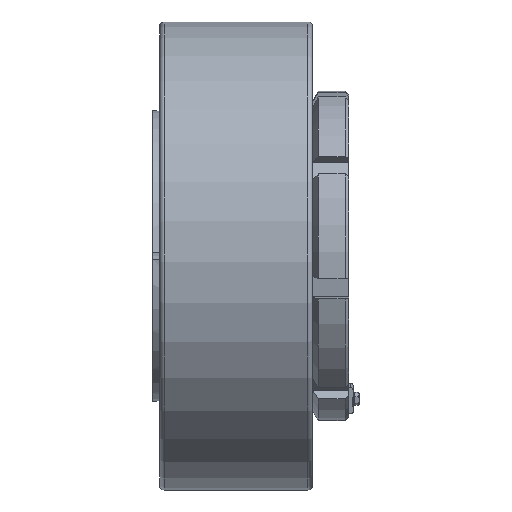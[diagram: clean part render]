
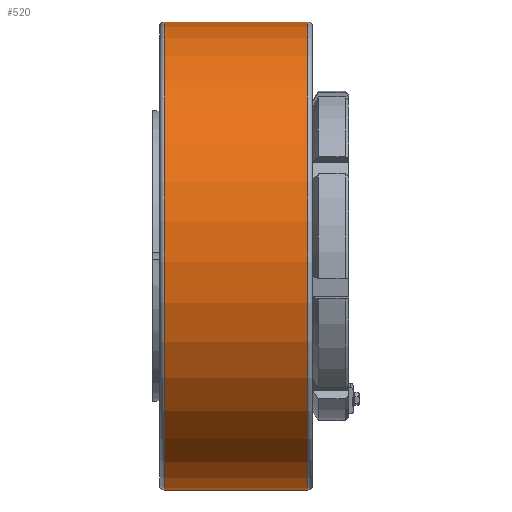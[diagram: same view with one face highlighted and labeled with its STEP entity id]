
A CAD part, front view. The second image highlights one B-rep face of the part: STEP entity #520.
In plain terms, the highlighted cylindrical face has radius 270 mm (diameter 540 mm), a full revolution.
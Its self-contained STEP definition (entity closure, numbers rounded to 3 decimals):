
#520 = ADVANCED_FACE( '', ( #1169, #1170 ), #1171, .T. );
#1169 = FACE_OUTER_BOUND( '', #1942, .T. );
#1170 = FACE_OUTER_BOUND( '', #1943, .T. );
#1171 = CYLINDRICAL_SURFACE( '', #1944, 270. );
#1942 = EDGE_LOOP( '', ( #4076 ) );
#1943 = EDGE_LOOP( '', ( #4077 ) );
#1944 = AXIS2_PLACEMENT_3D( '', #4078, #4079, #4080 );
#4076 = ORIENTED_EDGE( '', *, *, #5532, .T. );
#4077 = ORIENTED_EDGE( '', *, *, #5546, .F. );
#4078 = CARTESIAN_POINT( '', ( 0., 0., 0. ) );
#4079 = DIRECTION( '', ( -1., 0., 0. ) );
#4080 = DIRECTION( '', ( 0., 0., -1. ) );
#5532 = EDGE_CURVE( '', #6788, #6788, #6789, .T. );
#5546 = EDGE_CURVE( '', #6816, #6816, #6817, .T. );
#6788 = VERTEX_POINT( '', #8837 );
#6789 = CIRCLE( '', #8838, 270. );
#6816 = VERTEX_POINT( '', #8865 );
#6817 = CIRCLE( '', #8866, 270. );
#8837 = CARTESIAN_POINT( '', ( -221., 0., -270. ) );
#8838 = AXIS2_PLACEMENT_3D( '', #10392, #10393, #10394 );
#8865 = CARTESIAN_POINT( '', ( -55., 0., -270. ) );
#8866 = AXIS2_PLACEMENT_3D( '', #10434, #10435, #10436 );
#10392 = CARTESIAN_POINT( '', ( -221., 0., 0. ) );
#10393 = DIRECTION( '', ( 1., 0., 0. ) );
#10394 = DIRECTION( '', ( 0., 0., -1. ) );
#10434 = CARTESIAN_POINT( '', ( -55., 0., 0. ) );
#10435 = DIRECTION( '', ( 1., 0., 0. ) );
#10436 = DIRECTION( '', ( 0., 0., -1. ) );
